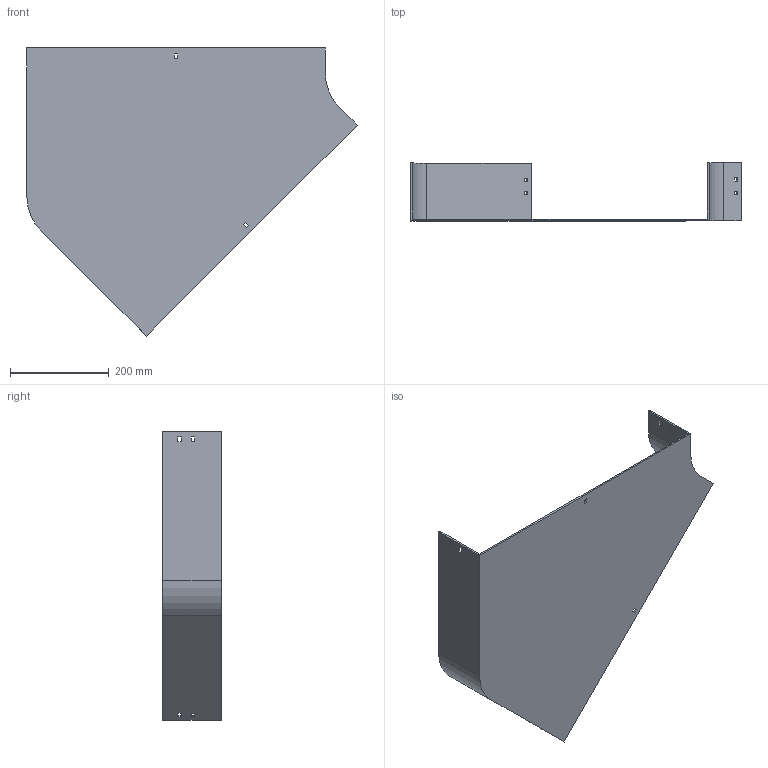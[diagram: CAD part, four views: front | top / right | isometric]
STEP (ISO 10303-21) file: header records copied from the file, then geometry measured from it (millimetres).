
FILE_DESCRIPTION (( 'STEP AP214' ), '1' );
FILE_NAME ('11B1J600.step', '2025-02-21T09:37:20', ( '' ), ( '' ), 'SwSTEP 2.0', 'SolidWorks 2023', '' );
FILE_SCHEMA (( 'AUTOMOTIVE_DESIGN' ));
Length unit declared in the file: millimetre
Products named in the file (1): 11B1J600
Bounding box: 668.64 x 117.5 x 583.16 mm (x, y, z)
Volume: 1255173.5 mm3; surface area: 727236.1 mm2
Topology: 1 solids, 1 shells, 58 faces, 168 edges, 112 vertices
Faces by surface type: plane 54, cylinder 4
Entity records: 1943 total; most frequent: CARTESIAN_POINT 339, ORIENTED_EDGE 336, DIRECTION 294, EDGE_CURVE 168, LINE 160, VECTOR 160, VERTEX_POINT 112, EDGE_LOOP 78
